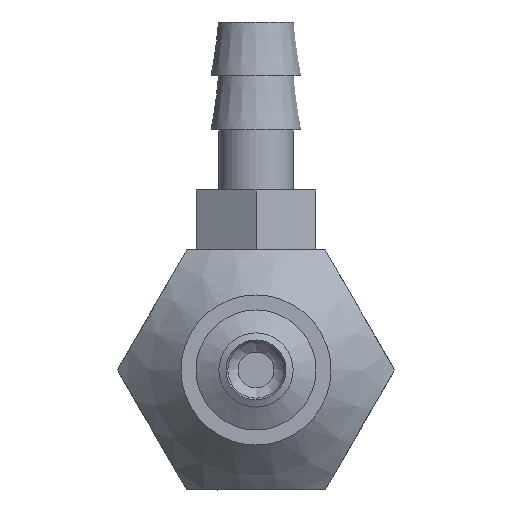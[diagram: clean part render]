
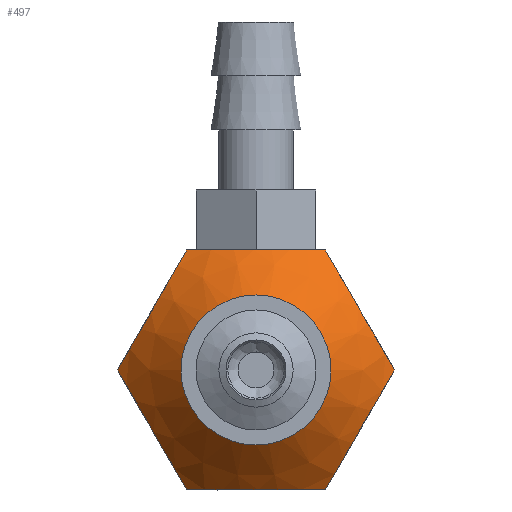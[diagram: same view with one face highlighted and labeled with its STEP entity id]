
A CAD part, front view. The second image highlights one B-rep face of the part: STEP entity #497.
In plain terms, the highlighted conical face has half-angle 45 degrees and reference radius 2.5 mm.
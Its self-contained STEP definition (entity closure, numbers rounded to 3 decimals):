
#497=ADVANCED_FACE('',(#677,#678),#679,.T.);
#677=FACE_BOUND('',#983,.T.);
#678=FACE_OUTER_BOUND('',#984,.T.);
#679=CONICAL_SURFACE('',#985,2.5,0.785);
#983=EDGE_LOOP('',(#1502));
#984=EDGE_LOOP('',(#1503,#1504,#1505,#1506,#1507,#1508));
#985=AXIS2_PLACEMENT_3D('',#1509,#1510,#1511);
#1502=ORIENTED_EDGE('',*,*,#2076,.F.);
#1503=ORIENTED_EDGE('',*,*,#2077,.F.);
#1504=ORIENTED_EDGE('',*,*,#2078,.F.);
#1505=ORIENTED_EDGE('',*,*,#2079,.F.);
#1506=ORIENTED_EDGE('',*,*,#2071,.F.);
#1507=ORIENTED_EDGE('',*,*,#2080,.F.);
#1508=ORIENTED_EDGE('',*,*,#2081,.F.);
#1509=CARTESIAN_POINT('',(0.0,0.,0.0));
#1510=DIRECTION('',(-0.0,1.0,-0.0));
#1511=DIRECTION('',(0.0,0.0,1.0));
#2071=EDGE_CURVE('',#2328,#2329,#2330,.T.);
#2076=EDGE_CURVE('',#2338,#2338,#2339,.T.);
#2077=EDGE_CURVE('',#2340,#2341,#2342,.T.);
#2078=EDGE_CURVE('',#2343,#2340,#2344,.T.);
#2079=EDGE_CURVE('',#2329,#2343,#2345,.T.);
#2080=EDGE_CURVE('',#2346,#2328,#2347,.T.);
#2081=EDGE_CURVE('',#2341,#2346,#2348,.T.);
#2328=VERTEX_POINT('',#2924);
#2329=VERTEX_POINT('',#2925);
#2330=B_SPLINE_CURVE_WITH_KNOTS('',2,(#2926,#2927,#2928,#2929,#2930),.UNSPECIFIED.,.F.,.F.,(3,2,3),(0.0,0.5,1.0),.UNSPECIFIED.);
#2338=VERTEX_POINT('',#2944);
#2339=CIRCLE('',#2945,2.5);
#2340=VERTEX_POINT('',#2946);
#2341=VERTEX_POINT('',#2947);
#2342=B_SPLINE_CURVE_WITH_KNOTS('',2,(#2948,#2949,#2950,#2951,#2952),.UNSPECIFIED.,.F.,.F.,(3,2,3),(0.0,0.5,1.0),.UNSPECIFIED.);
#2343=VERTEX_POINT('',#2953);
#2344=B_SPLINE_CURVE_WITH_KNOTS('',2,(#2954,#2955,#2956,#2957,#2958),.UNSPECIFIED.,.F.,.F.,(3,2,3),(0.0,0.5,1.0),.UNSPECIFIED.);
#2345=B_SPLINE_CURVE_WITH_KNOTS('',2,(#2959,#2960,#2961,#2962,#2963),.UNSPECIFIED.,.F.,.F.,(3,2,3),(0.0,0.5,1.0),.UNSPECIFIED.);
#2346=VERTEX_POINT('',#2964);
#2347=B_SPLINE_CURVE_WITH_KNOTS('',2,(#2965,#2966,#2967,#2968,#2969),.UNSPECIFIED.,.F.,.F.,(3,2,3),(0.0,0.5,1.0),.UNSPECIFIED.);
#2348=B_SPLINE_CURVE_WITH_KNOTS('',2,(#2970,#2971,#2972,#2973,#2974),.UNSPECIFIED.,.F.,.F.,(3,2,3),(0.0,0.5,1.0),.UNSPECIFIED.);
#2924=CARTESIAN_POINT('',(-4.619,2.119,0.));
#2925=CARTESIAN_POINT('',(-2.309,2.119,4.0));
#2926=CARTESIAN_POINT('',(-4.619,2.119,0.));
#2927=CARTESIAN_POINT('',(-4.002,1.502,1.068));
#2928=CARTESIAN_POINT('',(-3.468,1.5,1.993));
#2929=CARTESIAN_POINT('',(-2.93,1.498,2.925));
#2930=CARTESIAN_POINT('',(-2.309,2.119,4.));
#2944=CARTESIAN_POINT('',(0.0,0.,-2.5));
#2945=AXIS2_PLACEMENT_3D('',#3412,#3413,#3414);
#2946=CARTESIAN_POINT('',(4.619,2.119,0.));
#2947=CARTESIAN_POINT('',(2.309,2.119,-4.0));
#2948=CARTESIAN_POINT('',(4.619,2.119,0.));
#2949=CARTESIAN_POINT('',(4.002,1.502,-1.068));
#2950=CARTESIAN_POINT('',(3.468,1.5,-1.993));
#2951=CARTESIAN_POINT('',(2.93,1.498,-2.925));
#2952=CARTESIAN_POINT('',(2.309,2.119,-4.));
#2953=CARTESIAN_POINT('',(2.309,2.119,4.0));
#2954=CARTESIAN_POINT('',(2.309,2.119,4.0));
#2955=CARTESIAN_POINT('',(2.926,1.502,2.932));
#2956=CARTESIAN_POINT('',(3.46,1.5,2.007));
#2957=CARTESIAN_POINT('',(3.998,1.498,1.075));
#2958=CARTESIAN_POINT('',(4.619,2.119,0.));
#2959=CARTESIAN_POINT('',(-2.309,2.119,4.0));
#2960=CARTESIAN_POINT('',(-1.072,1.5,4.0));
#2961=CARTESIAN_POINT('',(-0.001,1.5,4.0));
#2962=CARTESIAN_POINT('',(1.071,1.5,4.0));
#2963=CARTESIAN_POINT('',(2.309,2.119,4.0));
#2964=CARTESIAN_POINT('',(-2.309,2.119,-4.0));
#2965=CARTESIAN_POINT('',(-2.309,2.119,-4.0));
#2966=CARTESIAN_POINT('',(-2.926,1.502,-2.932));
#2967=CARTESIAN_POINT('',(-3.46,1.5,-2.007));
#2968=CARTESIAN_POINT('',(-3.998,1.498,-1.075));
#2969=CARTESIAN_POINT('',(-4.619,2.119,0.));
#2970=CARTESIAN_POINT('',(2.309,2.119,-4.0));
#2971=CARTESIAN_POINT('',(1.072,1.5,-4.0));
#2972=CARTESIAN_POINT('',(0.001,1.5,-4.0));
#2973=CARTESIAN_POINT('',(-1.071,1.5,-4.0));
#2974=CARTESIAN_POINT('',(-2.309,2.119,-4.0));
#3412=CARTESIAN_POINT('',(0.0,0.,0.0));
#3413=DIRECTION('',(0.0,-1.0,0.0));
#3414=DIRECTION('',(0.0,0.0,-1.0));
